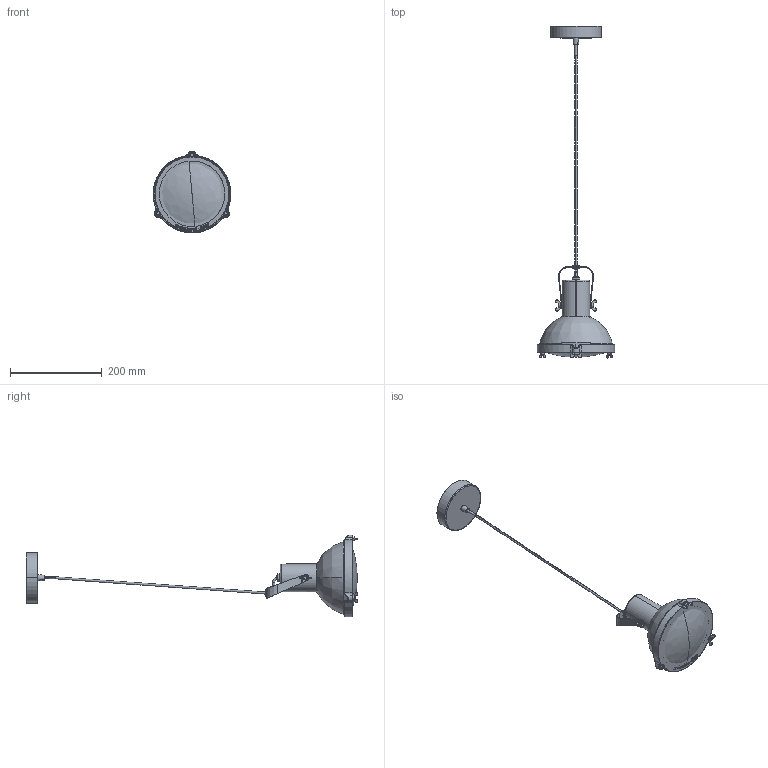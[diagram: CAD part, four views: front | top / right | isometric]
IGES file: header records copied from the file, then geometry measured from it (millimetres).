
Start section: SolidWorks IGES file using analytic representation for surfaces
Global section: file name: C:\Users\tungari.NEMOLIGHTING\Desktop\3D\PENDANT\3D_PROJECTEUR165_PENDANT\3D_DEFEATURE_PROJECTEUR165_PENDANT\3D_PROJECTEUR165_PENDANT.IGS; native system: SolidWorks 2016; preprocessor: SolidWorks 2016; author: tungari; date: 180226.103903; units: millimetre
Bounding box: 169 x 723.78 x 178.21 mm (x, y, z)
Surface area: 182573.8 mm2 (no closed solid volume)
Topology: 0 solids, 0 shells, 851 faces, 7332 edges, 7331 vertices
Faces by surface type: bspline 633, revolution 218
